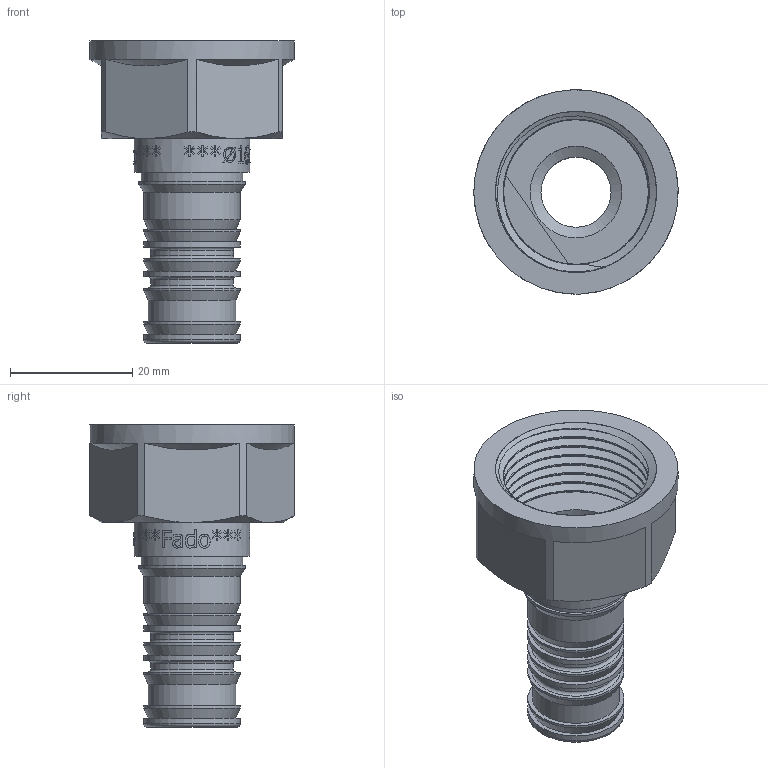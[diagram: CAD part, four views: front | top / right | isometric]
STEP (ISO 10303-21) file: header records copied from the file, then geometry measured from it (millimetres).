
FILE_DESCRIPTION(/* description */ (''),/* implementation_level */ '2;1');
FILE_NAME(/* name */ 'C:\Users\Doom\Desktop\Фадотех\Пресс\HDM14 15.01.2020\HDM14 15.01.2020.stp',/* time_stamp */ '2022-08-11T16:11:40+03:00',/* author */ ('Doom'),/* organization */ (''),/* preprocessor_version */ 'ST-DEVELOPER v18',/* originating_system */ 'Autodesk Inventor 2020',/* authorisation */ '');
FILE_SCHEMA (('AUTOMOTIVE_DESIGN { 1 0 10303 214 3 1 1 }'));
Length unit declared in the file: millimetre
Products named in the file (1): 16 Model 18.12.2019
Bounding box: 33.5 x 33.5 x 49.5 mm (x, y, z)
Volume: 8899.2 mm3; surface area: 10766.7 mm2
Topology: 2 solids, 2 shells, 505 faces, 1407 edges, 949 vertices
Faces by surface type: bspline 311, plane 107, cylinder 61, cone 21, torus 5
Full cylindrical faces by diameter (mm): 11.5 x1, 13.5 x2, 14.3 x1, 15 x1, 15.8 x8, 16.6 x1, 17.5 x1, 19 x1, 23.71 x7, 26.4 x2, 33.5 x1
Entity records: 25674 total; most frequent: CARTESIAN_POINT 14658, ORIENTED_EDGE 2810, EDGE_CURVE 1405, DIRECTION 1356, VERTEX_POINT 948, B_SPLINE_CURVE_WITH_KNOTS 649, EDGE_LOOP 553, FACE_OUTER_BOUND 505
